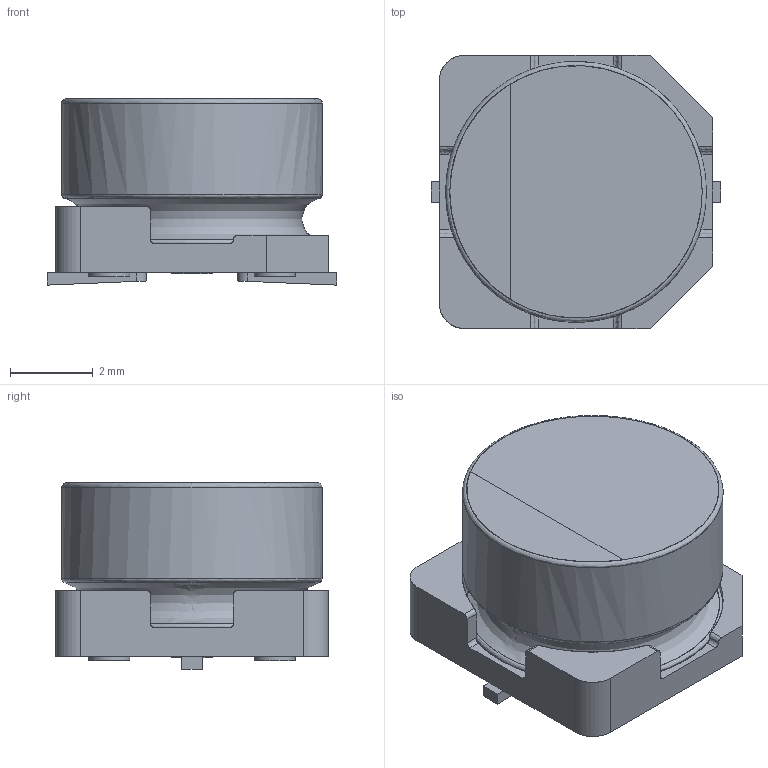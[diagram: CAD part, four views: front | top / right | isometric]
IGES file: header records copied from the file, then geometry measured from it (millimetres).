
Start section: JAMA-IS VERSION  1.0
Bounding box: 7 x 6.6 x 4.5 mm (x, y, z)
Surface area: 273.5 mm2 (no closed solid volume)
Topology: 0 solids, 0 shells, 74 faces, 994 edges, 976 vertices
Faces by surface type: bspline 74
